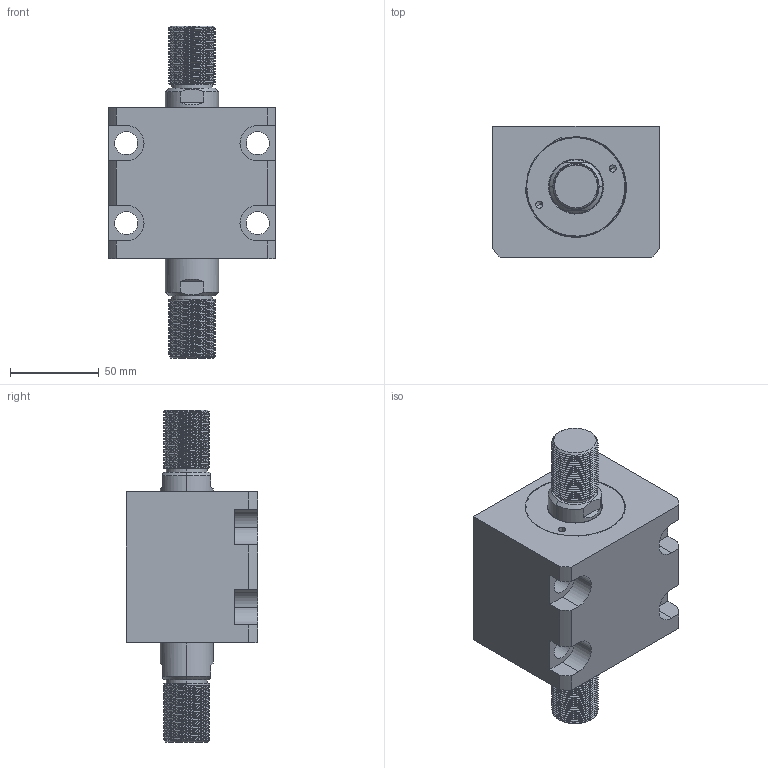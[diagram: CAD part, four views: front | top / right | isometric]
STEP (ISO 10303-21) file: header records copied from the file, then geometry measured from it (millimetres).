
FILE_DESCRIPTION (( 'STEP AP203' ), '1' );
FILE_NAME ('CHTB-LWM50-10W.STEP', '2018-05-22T08:57:16', ( '' ), ( '' ), 'SwSTEP 2.0', 'SolidWorks 2015', '' );
FILE_SCHEMA (( 'CONFIG_CONTROL_DESIGN' ));
Length unit declared in the file: millimetre
Products named in the file (4): CHTB-LWM50-10W; 活塞杆LWM50-10W; 掛极LWM50-10W; CHTM-SDMA50QG
Assembly tree (3 placements, depth 2):
  CHTB-LWM50-10W
    掛极LWM50-10W
    活塞杆LWM50-10W
    CHTM-SDMA50QG
Bounding box: 94 x 74 x 187 mm (x, y, z)
Volume: 578626.6 mm3; surface area: 105360.5 mm2
Topology: 3 solids, 3 shells, 293 faces, 811 edges, 540 vertices
Faces by surface type: cylinder 187, plane 53, cone 19, bspline 18, torus 16
Entity records: 18932 total; most frequent: CARTESIAN_POINT 11788, ORIENTED_EDGE 1614, DIRECTION 1218, EDGE_CURVE 807, VERTEX_POINT 540, AXIS2_PLACEMENT_3D 471, EDGE_LOOP 329, ADVANCED_FACE 293
